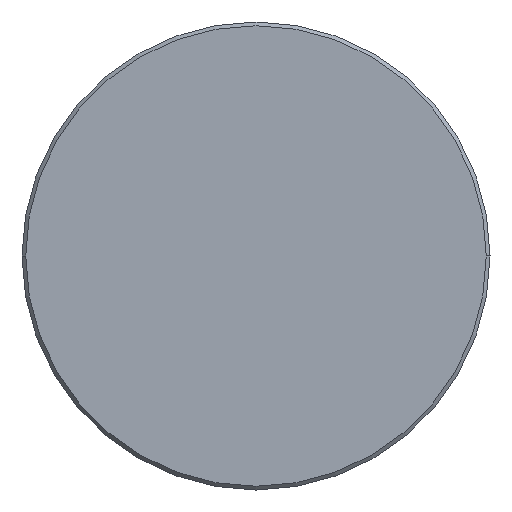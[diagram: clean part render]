
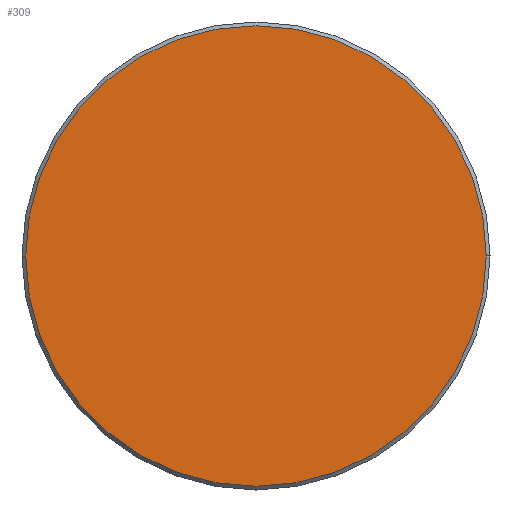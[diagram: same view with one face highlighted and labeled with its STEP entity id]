
A CAD part, left-side view. The second image highlights one B-rep face of the part: STEP entity #309.
In plain terms, the highlighted planar face has unit normal (-1, 0, 0).
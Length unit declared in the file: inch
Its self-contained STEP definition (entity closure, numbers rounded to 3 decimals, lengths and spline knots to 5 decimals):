
#19 = VERTEX_POINT ( 'NONE', #122 ) ;
#25 = FACE_OUTER_BOUND ( 'NONE', #234, .T. ) ;
#56 = EDGE_CURVE ( 'NONE', #72, #19, #87, .T. ) ;
#57 = DIRECTION ( 'NONE',  ( -1., 0., 0. ) ) ;
#67 = CARTESIAN_POINT ( 'NONE',  ( 0., 0., 0. ) ) ;
#69 = CARTESIAN_POINT ( 'NONE',  ( 0., 0., 0. ) ) ;
#72 = VERTEX_POINT ( 'NONE', #327 ) ;
#77 = DIRECTION ( 'NONE',  ( 0., -1., 0. ) ) ;
#87 = CIRCLE ( 'NONE', #200, 0.246 ) ;
#98 = DIRECTION ( 'NONE',  ( -1., 0., 0. ) ) ;
#100 = CIRCLE ( 'NONE', #349, 0.246 ) ;
#122 = CARTESIAN_POINT ( 'NONE',  ( 0., -0.246, 0. ) ) ;
#131 = CARTESIAN_POINT ( 'NONE',  ( 0., 0., 0. ) ) ;
#182 = DIRECTION ( 'NONE',  ( -1., 0., 0. ) ) ;
#200 = AXIS2_PLACEMENT_3D ( 'NONE', #67, #98, #237 ) ;
#234 = EDGE_LOOP ( 'NONE', ( #340, #333 ) ) ;
#237 = DIRECTION ( 'NONE',  ( 0., -1., 0. ) ) ;
#242 = PLANE ( 'NONE',  #377 ) ;
#300 = EDGE_CURVE ( 'NONE', #19, #72, #100, .T. ) ;
#309 = ADVANCED_FACE ( 'NONE', ( #25 ), #242, .T. ) ;
#327 = CARTESIAN_POINT ( 'NONE',  ( 0., 0.246, 0. ) ) ;
#333 = ORIENTED_EDGE ( 'NONE', *, *, #300, .T. ) ;
#340 = ORIENTED_EDGE ( 'NONE', *, *, #56, .T. ) ;
#349 = AXIS2_PLACEMENT_3D ( 'NONE', #69, #182, #77 ) ;
#377 = AXIS2_PLACEMENT_3D ( 'NONE', #131, #57, #379 ) ;
#379 = DIRECTION ( 'NONE',  ( 0., -1., 0. ) ) ;
